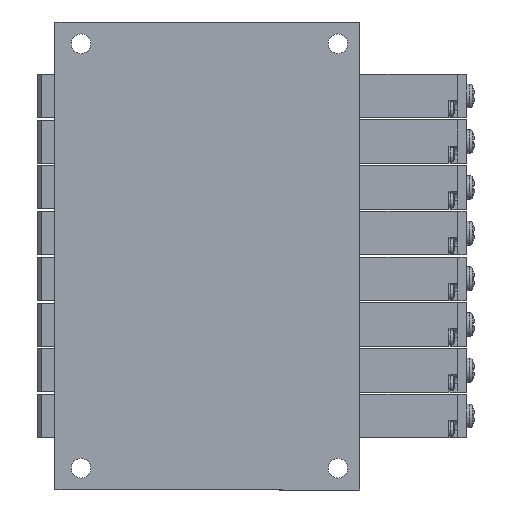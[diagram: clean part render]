
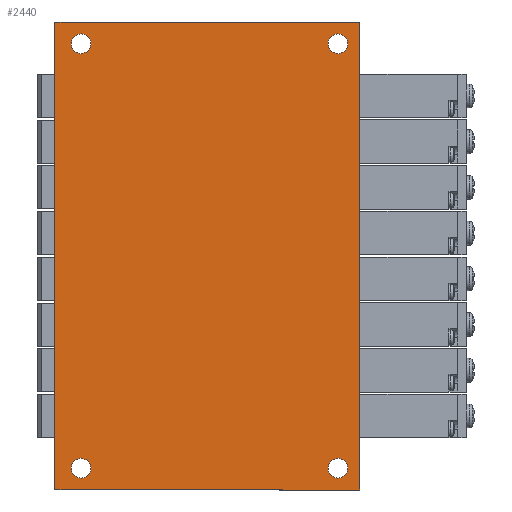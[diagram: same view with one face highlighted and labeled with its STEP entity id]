
A CAD part, front view. The second image highlights one B-rep face of the part: STEP entity #2440.
In plain terms, the highlighted planar face has unit normal (0, -1, 0) as drawn and (0, 0, 1) by its records, which use the part's own axes.
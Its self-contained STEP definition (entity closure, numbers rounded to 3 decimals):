
#2440=ADVANCED_FACE('',(#5442,#5443,#5444,#5445,#5446),#5447,.T.);
#5442=FACE_BOUND('',#8942,.T.);
#5443=FACE_BOUND('',#8943,.T.);
#5444=FACE_BOUND('',#8944,.T.);
#5445=FACE_BOUND('',#8945,.T.);
#5446=FACE_OUTER_BOUND('',#8946,.T.);
#5447=PLANE('',#8947);
#8942=EDGE_LOOP('',(#19248));
#8943=EDGE_LOOP('',(#19249));
#8944=EDGE_LOOP('',(#19250));
#8945=EDGE_LOOP('',(#19251));
#8946=EDGE_LOOP('',(#19252,#19253,#19254,#19255));
#8947=AXIS2_PLACEMENT_3D('',#19256,#19257,#19258);
#19248=ORIENTED_EDGE('',*,*,#25395,.F.);
#19249=ORIENTED_EDGE('',*,*,#25407,.T.);
#19250=ORIENTED_EDGE('',*,*,#25408,.F.);
#19251=ORIENTED_EDGE('',*,*,#25409,.T.);
#19252=ORIENTED_EDGE('',*,*,#25410,.T.);
#19253=ORIENTED_EDGE('',*,*,#25411,.T.);
#19254=ORIENTED_EDGE('',*,*,#25376,.T.);
#19255=ORIENTED_EDGE('',*,*,#25380,.T.);
#19256=CARTESIAN_POINT('',(-53.75,-35.0,25.889));
#19257=DIRECTION('',(0.0,0.0,1.0));
#19258=DIRECTION('',(1.0,0.0,0.0));
#25376=EDGE_CURVE('',#31339,#31337,#31340,.T.);
#25380=EDGE_CURVE('',#31337,#31344,#31346,.T.);
#25395=EDGE_CURVE('',#31374,#31374,#31375,.T.);
#25407=EDGE_CURVE('',#31398,#31398,#31399,.T.);
#25408=EDGE_CURVE('',#31400,#31400,#31401,.T.);
#25409=EDGE_CURVE('',#31402,#31402,#31403,.T.);
#25410=EDGE_CURVE('',#31344,#31404,#31405,.T.);
#25411=EDGE_CURVE('',#31404,#31339,#31406,.T.);
#31337=VERTEX_POINT('',#41218);
#31339=VERTEX_POINT('',#41221);
#31340=LINE('',#41222,#41223);
#31344=VERTEX_POINT('',#41229);
#31346=LINE('',#41232,#41233);
#31374=VERTEX_POINT('',#41263);
#31375=CIRCLE('',#41264,2.25);
#31398=VERTEX_POINT('',#41287);
#31399=CIRCLE('',#41288,2.25);
#31400=VERTEX_POINT('',#41289);
#31401=CIRCLE('',#41290,2.25);
#31402=VERTEX_POINT('',#41291);
#31403=CIRCLE('',#41292,2.25);
#31404=VERTEX_POINT('',#41293);
#31405=LINE('',#41294,#41295);
#31406=LINE('',#41296,#41297);
#41218=CARTESIAN_POINT('',(53.75,35.0,25.889));
#41221=CARTESIAN_POINT('',(53.75,-35.0,25.889));
#41222=CARTESIAN_POINT('',(53.75,-35.0,25.889));
#41223=VECTOR('',#47967,1.0);
#41229=CARTESIAN_POINT('',(-53.75,35.0,25.889));
#41232=CARTESIAN_POINT('',(53.75,35.0,25.889));
#41233=VECTOR('',#47971,1.0);
#41263=CARTESIAN_POINT('',(51.0,30.0,25.889));
#41264=AXIS2_PLACEMENT_3D('',#48010,#48011,#48012);
#41287=CARTESIAN_POINT('',(-51.0,30.0,25.889));
#41288=AXIS2_PLACEMENT_3D('',#48046,#48047,#48048);
#41289=CARTESIAN_POINT('',(51.0,-29.0,25.889));
#41290=AXIS2_PLACEMENT_3D('',#48049,#48050,#48051);
#41291=CARTESIAN_POINT('',(-51.0,-29.0,25.889));
#41292=AXIS2_PLACEMENT_3D('',#48052,#48053,#48054);
#41293=CARTESIAN_POINT('',(-53.75,-35.0,25.889));
#41294=CARTESIAN_POINT('',(-53.75,35.0,25.889));
#41295=VECTOR('',#48055,1.0);
#41296=CARTESIAN_POINT('',(-53.75,-35.0,25.889));
#41297=VECTOR('',#48056,1.0);
#47967=DIRECTION('',(0.0,1.0,0.0));
#47971=DIRECTION('',(-1.0,0.0,0.0));
#48010=CARTESIAN_POINT('',(48.75,30.0,25.889));
#48011=DIRECTION('',(0.0,0.0,1.0));
#48012=DIRECTION('',(1.0,0.0,0.0));
#48046=CARTESIAN_POINT('',(-48.75,30.0,25.889));
#48047=DIRECTION('',(0.0,0.0,-1.0));
#48048=DIRECTION('',(-1.0,0.0,0.0));
#48049=CARTESIAN_POINT('',(48.75,-29.0,25.889));
#48050=DIRECTION('',(0.0,0.0,1.0));
#48051=DIRECTION('',(1.0,0.0,0.0));
#48052=CARTESIAN_POINT('',(-48.75,-29.0,25.889));
#48053=DIRECTION('',(0.0,0.0,-1.0));
#48054=DIRECTION('',(-1.0,0.0,0.0));
#48055=DIRECTION('',(0.0,-1.0,0.0));
#48056=DIRECTION('',(1.0,0.0,0.0));
